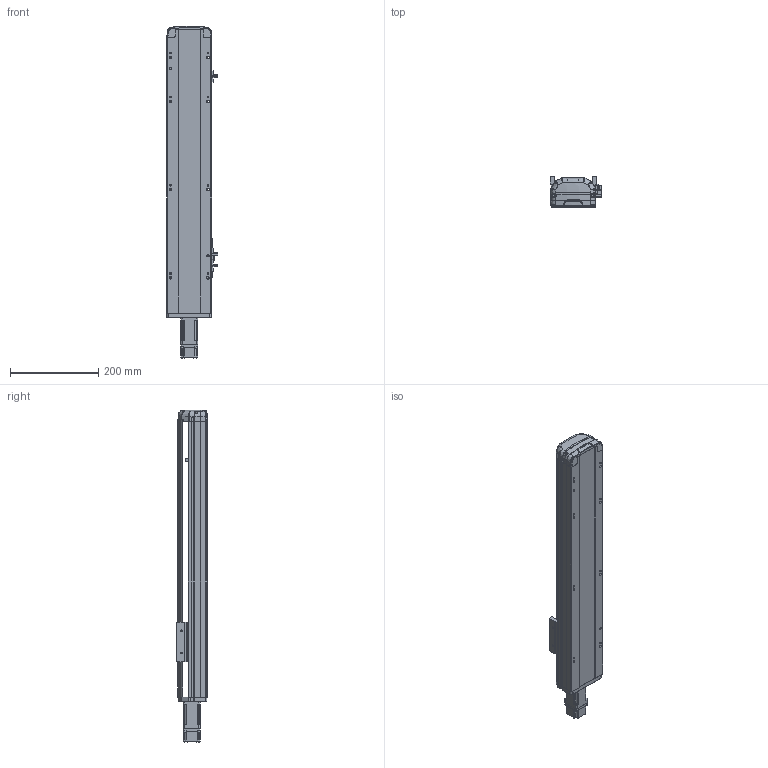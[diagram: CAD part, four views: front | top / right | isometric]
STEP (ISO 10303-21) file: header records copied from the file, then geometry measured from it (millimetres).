
FILE_DESCRIPTION (( 'STEP AP214' ), '1' );
FILE_NAME ('RTH10-XX-400-E-M10-C4.STEP', '2025-10-25T05:22:55', ( 'Microsoft' ), ( 'Microsoft' ), 'SwSTEP 2.0', 'SolidWorks 2018', '' );
FILE_SCHEMA (( 'AUTOMOTIVE_DESIGN' ));
Length unit declared in the file: millimetre
Products named in the file (9): N_RTH12-GY-004-賑釱^RTH10-XX-XX-E-M10-C4; N_RTH12-GY-001P^RTH10-XX-XX-E-M10-C4; RTH10-XX-400-E-M10-C4; N_RTH12-E-008-M10萇儂啣^RTH10-XX-XX-E-M10-C4; N_P10^RTH10-XX-XX-E-M10-C4; N_RTH13-L-012覜茼え俋离^RTH10-XX-XX-E-M10-C4; N_RTH12-E-007P-奻裔^RTH10-XX-XX-E-M10-C4; N_OMRON EE-SX672 传感器^RTH10-XX-XX-E-M10-C4; N_RTH12-E-011P-臏倰第菁釱^RTH10-XX-XX-E-M10-C4
Assembly tree (10 placements, depth 2):
  RTH10-XX-400-E-M10-C4
    N_RTH12-E-011P-臏倰第菁釱^RTH10-XX-XX-E-M10-C4
    N_RTH13-L-012覜茼え俋离^RTH10-XX-XX-E-M10-C4
    N_OMRON EE-SX672 传感器^RTH10-XX-XX-E-M10-C4  x3
    N_P10^RTH10-XX-XX-E-M10-C4
    N_RTH12-E-007P-奻裔^RTH10-XX-XX-E-M10-C4
    N_RTH12-E-008-M10萇儂啣^RTH10-XX-XX-E-M10-C4
    N_RTH12-GY-001P^RTH10-XX-XX-E-M10-C4
    N_RTH12-GY-004-賑釱^RTH10-XX-XX-E-M10-C4
Bounding box: 116.5 x 70 x 753.17 mm (x, y, z)
Volume: 2723149.7 mm3; surface area: 449084.1 mm2
Topology: 9 solids, 11 shells, 1932 faces, 5365 edges, 3518 vertices
Faces by surface type: plane 968, bspline 472, cylinder 457, cone 33, torus 2
Entity records: 57817 total; most frequent: CARTESIAN_POINT 23034, ORIENTED_EDGE 7810, DIRECTION 5989, EDGE_CURVE 3911, VERTEX_POINT 2562, LINE 2075, VECTOR 2075, AXIS2_PLACEMENT_3D 1957
